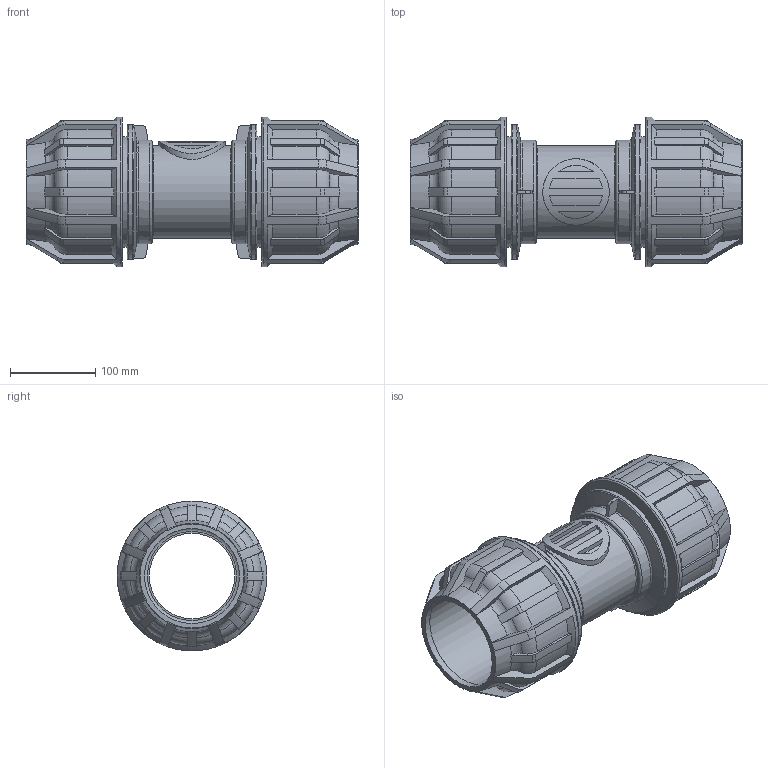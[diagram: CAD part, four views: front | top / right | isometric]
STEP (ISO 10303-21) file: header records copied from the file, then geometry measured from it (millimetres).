
FILE_DESCRIPTION(/* description */ ('STEP AP214'),/* implementation_level */ '2;1');
FILE_NAME(/* name */ '331B000110(400)',/* time_stamp */ '2025-01-13T14:35:19+01:00',/* author */ ('License CC BY-ND 4.0'),/* organization */ ('CADENAS'),/* preprocessor_version */ 'ST-DEVELOPER v19.3',/* originating_system */ 'PARTsolutions',/* authorisation */ ' ');
FILE_SCHEMA (('AUTOMOTIVE_DESIGN {1 0 10303 214 3 1 1}'));
Length unit declared in the file: millimetre
Products named in the file (1): 331B000110(400)
Bounding box: 390 x 176 x 176 mm (x, y, z)
Volume: 2783820.3 mm3; surface area: 402872.8 mm2
Topology: 1 solids, 1 shells, 362 faces, 1024 edges, 679 vertices
Faces by surface type: torus 114, plane 98, cylinder 82, cone 68
Full cylindrical faces by diameter (mm): 78 x1, 100.35 x1, 109.12 x1, 111.5 x2, 113.5 x2, 121.44 x2, 130.24 x2, 158.4 x2, 176 x2
Entity records: 12635 total; most frequent: CARTESIAN_POINT 3986, ORIENTED_EDGE 1972, DIRECTION 1578, EDGE_CURVE 986, AXIS2_PLACEMENT_3D 695, VERTEX_POINT 670, B_SPLINE_CURVE_WITH_KNOTS 466, EDGE_LOOP 408
